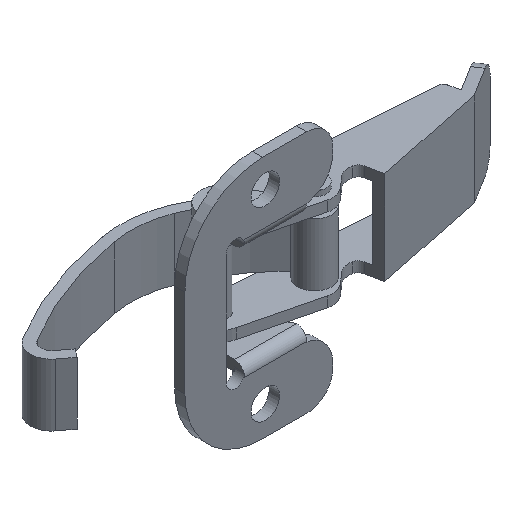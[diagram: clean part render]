
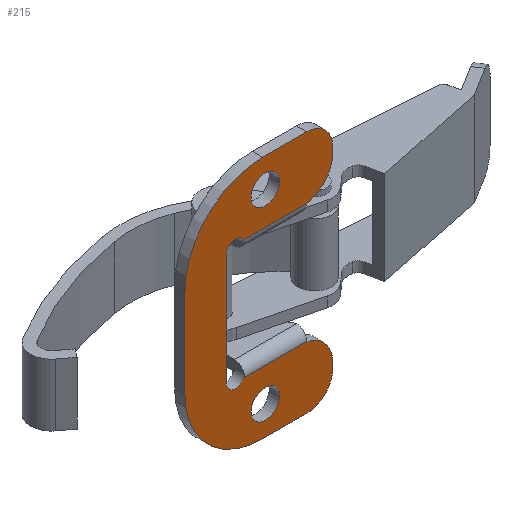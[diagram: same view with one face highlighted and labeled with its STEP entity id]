
A CAD part, isometric view. The second image highlights one B-rep face of the part: STEP entity #215.
In plain terms, the highlighted planar face has unit normal (0, -1, 0).
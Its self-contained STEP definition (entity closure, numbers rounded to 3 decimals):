
#215 = ADVANCED_FACE( '', ( #484, #485, #486 ), #487, .F. );
#484 = FACE_BOUND( '', #812, .T. );
#485 = FACE_BOUND( '', #813, .T. );
#486 = FACE_OUTER_BOUND( '', #814, .T. );
#487 = PLANE( '', #815 );
#812 = EDGE_LOOP( '', ( #1363 ) );
#813 = EDGE_LOOP( '', ( #1364 ) );
#814 = EDGE_LOOP( '', ( #1365, #1366, #1367, #1368, #1369, #1370, #1371, #1372, #1373, #1374, #1375, #1376, #1377, #1378, #1379, #1380, #1381, #1382 ) );
#815 = AXIS2_PLACEMENT_3D( '', #1383, #1384, #1385 );
#1363 = ORIENTED_EDGE( '', *, *, #2052, .T. );
#1364 = ORIENTED_EDGE( '', *, *, #1890, .T. );
#1365 = ORIENTED_EDGE( '', *, *, #1962, .F. );
#1366 = ORIENTED_EDGE( '', *, *, #2053, .T. );
#1367 = ORIENTED_EDGE( '', *, *, #1976, .F. );
#1368 = ORIENTED_EDGE( '', *, *, #2008, .F. );
#1369 = ORIENTED_EDGE( '', *, *, #2022, .F. );
#1370 = ORIENTED_EDGE( '', *, *, #1886, .F. );
#1371 = ORIENTED_EDGE( '', *, *, #2054, .F. );
#1372 = ORIENTED_EDGE( '', *, *, #2055, .F. );
#1373 = ORIENTED_EDGE( '', *, *, #2018, .F. );
#1374 = ORIENTED_EDGE( '', *, *, #1894, .F. );
#1375 = ORIENTED_EDGE( '', *, *, #2056, .F. );
#1376 = ORIENTED_EDGE( '', *, *, #1968, .F. );
#1377 = ORIENTED_EDGE( '', *, *, #2057, .F. );
#1378 = ORIENTED_EDGE( '', *, *, #1939, .F. );
#1379 = ORIENTED_EDGE( '', *, *, #1908, .F. );
#1380 = ORIENTED_EDGE( '', *, *, #2058, .T. );
#1381 = ORIENTED_EDGE( '', *, *, #1859, .F. );
#1382 = ORIENTED_EDGE( '', *, *, #2059, .F. );
#1383 = CARTESIAN_POINT( '', ( 0., -8.5, 0. ) );
#1384 = DIRECTION( '', ( 0., 1., 0. ) );
#1385 = DIRECTION( '', ( 1., 0., 0. ) );
#1859 = EDGE_CURVE( '', #2199, #2200, #2201, .T. );
#1886 = EDGE_CURVE( '', #2246, #2248, #2249, .T. );
#1890 = EDGE_CURVE( '', #2254, #2254, #2255, .T. );
#1894 = EDGE_CURVE( '', #2260, #2262, #2263, .T. );
#1908 = EDGE_CURVE( '', #2284, #2286, #2287, .T. );
#1939 = EDGE_CURVE( '', #2286, #2339, #2340, .T. );
#1962 = EDGE_CURVE( '', #2377, #2379, #2380, .T. );
#1968 = EDGE_CURVE( '', #2388, #2390, #2391, .T. );
#1976 = EDGE_CURVE( '', #2401, #2402, #2403, .T. );
#2008 = EDGE_CURVE( '', #2452, #2401, #2454, .T. );
#2018 = EDGE_CURVE( '', #2262, #2466, #2467, .T. );
#2022 = EDGE_CURVE( '', #2248, #2452, #2471, .T. );
#2052 = EDGE_CURVE( '', #2519, #2519, #2520, .T. );
#2053 = EDGE_CURVE( '', #2377, #2402, #2521, .F. );
#2054 = EDGE_CURVE( '', #2522, #2246, #2523, .T. );
#2055 = EDGE_CURVE( '', #2466, #2522, #2524, .T. );
#2056 = EDGE_CURVE( '', #2390, #2260, #2525, .T. );
#2057 = EDGE_CURVE( '', #2339, #2388, #2526, .T. );
#2058 = EDGE_CURVE( '', #2284, #2200, #2527, .F. );
#2059 = EDGE_CURVE( '', #2379, #2199, #2528, .T. );
#2199 = VERTEX_POINT( '', #2701 );
#2200 = VERTEX_POINT( '', #2702 );
#2201 = CIRCLE( '', #2703, 1.75 );
#2246 = VERTEX_POINT( '', #2761 );
#2248 = VERTEX_POINT( '', #2764 );
#2249 = CIRCLE( '', #2765, 5. );
#2254 = VERTEX_POINT( '', #2771 );
#2255 = CIRCLE( '', #2772, 2.75 );
#2260 = VERTEX_POINT( '', #2777 );
#2262 = VERTEX_POINT( '', #2780 );
#2263 = CIRCLE( '', #2781, 15. );
#2284 = VERTEX_POINT( '', #2809 );
#2286 = VERTEX_POINT( '', #2811 );
#2287 = LINE( '', #2812, #2813 );
#2339 = VERTEX_POINT( '', #2876 );
#2340 = CIRCLE( '', #2877, 6. );
#2377 = VERTEX_POINT( '', #2922 );
#2379 = VERTEX_POINT( '', #2929 );
#2380 = CIRCLE( '', #2930, 1.75 );
#2388 = VERTEX_POINT( '', #2939 );
#2390 = VERTEX_POINT( '', #2942 );
#2391 = CIRCLE( '', #2943, 5. );
#2401 = VERTEX_POINT( '', #2956 );
#2402 = VERTEX_POINT( '', #2957 );
#2403 = LINE( '', #2958, #2959 );
#2452 = VERTEX_POINT( '', #3020 );
#2454 = CIRCLE( '', #3023, 6. );
#2466 = VERTEX_POINT( '', #3039 );
#2467 = LINE( '', #3040, #3041 );
#2471 = LINE( '', #3047, #3048 );
#2519 = VERTEX_POINT( '', #3113 );
#2520 = CIRCLE( '', #3114, 2.75 );
#2521 = LINE( '', #3115, #3116 );
#2522 = VERTEX_POINT( '', #3117 );
#2523 = LINE( '', #3118, #3119 );
#2524 = CIRCLE( '', #3120, 15. );
#2525 = LINE( '', #3121, #3122 );
#2526 = LINE( '', #3123, #3124 );
#2527 = LINE( '', #3125, #3126 );
#2528 = LINE( '', #3127, #3128 );
#2701 = CARTESIAN_POINT( '', ( -7.5, -8.5, -10.75 ) );
#2702 = CARTESIAN_POINT( '', ( -4.169, -8.5, -11.5 ) );
#2703 = AXIS2_PLACEMENT_3D( '', #3336, #3337, #3338 );
#2761 = CARTESIAN_POINT( '', ( 8., -8.5, 23.5 ) );
#2764 = CARTESIAN_POINT( '', ( 13., -8.5, 18.5 ) );
#2765 = AXIS2_PLACEMENT_3D( '', #3378, #3379, #3380 );
#2771 = CARTESIAN_POINT( '', ( 0., -8.5, -15.15 ) );
#2772 = AXIS2_PLACEMENT_3D( '', #3385, #3386, #3387 );
#2777 = CARTESIAN_POINT( '', ( -0.5, -8.5, -23.5 ) );
#2780 = CARTESIAN_POINT( '', ( -15.5, -8.5, -8.5 ) );
#2781 = AXIS2_PLACEMENT_3D( '', #3392, #3393, #3394 );
#2809 = CARTESIAN_POINT( '', ( 8., -8.5, -11.5 ) );
#2811 = CARTESIAN_POINT( '', ( 8., -8.5, -11.584 ) );
#2812 = CARTESIAN_POINT( '', ( 8., -8.5, -11.5 ) );
#2813 = VECTOR( '', #3411, 1000. );
#2876 = CARTESIAN_POINT( '', ( 13., -8.5, -17.5 ) );
#2877 = AXIS2_PLACEMENT_3D( '', #3468, #3469, #3470 );
#2922 = CARTESIAN_POINT( '', ( -4.169, -8.5, 11.5 ) );
#2929 = CARTESIAN_POINT( '', ( -7.5, -8.5, 10.75 ) );
#2930 = AXIS2_PLACEMENT_3D( '', #3503, #3504, #3505 );
#2939 = CARTESIAN_POINT( '', ( 13., -8.5, -18.5 ) );
#2942 = CARTESIAN_POINT( '', ( 8., -8.5, -23.5 ) );
#2943 = AXIS2_PLACEMENT_3D( '', #3514, #3515, #3516 );
#2956 = CARTESIAN_POINT( '', ( 8., -8.5, 11.584 ) );
#2957 = CARTESIAN_POINT( '', ( 8., -8.5, 11.5 ) );
#2958 = CARTESIAN_POINT( '', ( 8., -8.5, 11.584 ) );
#2959 = VECTOR( '', #3523, 1000. );
#3020 = CARTESIAN_POINT( '', ( 13., -8.5, 17.5 ) );
#3023 = AXIS2_PLACEMENT_3D( '', #3576, #3577, #3578 );
#3039 = CARTESIAN_POINT( '', ( -15.5, -8.5, 8.5 ) );
#3040 = CARTESIAN_POINT( '', ( -15.5, -8.5, -8.5 ) );
#3041 = VECTOR( '', #3586, 1000. );
#3047 = CARTESIAN_POINT( '', ( 13., -8.5, 18.5 ) );
#3048 = VECTOR( '', #3589, 1000. );
#3113 = CARTESIAN_POINT( '', ( 0., -8.5, 20.65 ) );
#3114 = AXIS2_PLACEMENT_3D( '', #3628, #3629, #3630 );
#3115 = CARTESIAN_POINT( '', ( 8., -8.5, 11.5 ) );
#3116 = VECTOR( '', #3631, 1000. );
#3117 = CARTESIAN_POINT( '', ( -0.5, -8.5, 23.5 ) );
#3118 = CARTESIAN_POINT( '', ( -0.5, -8.5, 23.5 ) );
#3119 = VECTOR( '', #3632, 1000. );
#3120 = AXIS2_PLACEMENT_3D( '', #3633, #3634, #3635 );
#3121 = CARTESIAN_POINT( '', ( 8., -8.5, -23.5 ) );
#3122 = VECTOR( '', #3636, 1000. );
#3123 = CARTESIAN_POINT( '', ( 13., -8.5, -17.5 ) );
#3124 = VECTOR( '', #3637, 1000. );
#3125 = CARTESIAN_POINT( '', ( -4., -8.5, -11.5 ) );
#3126 = VECTOR( '', #3638, 1000. );
#3127 = CARTESIAN_POINT( '', ( -7.5, -8.5, 10.75 ) );
#3128 = VECTOR( '', #3639, 1000. );
#3336 = CARTESIAN_POINT( '', ( -5.75, -8.5, -10.75 ) );
#3337 = DIRECTION( '', ( 0., -1., 0. ) );
#3338 = DIRECTION( '', ( -1., 0., 0. ) );
#3378 = CARTESIAN_POINT( '', ( 8., -8.5, 18.5 ) );
#3379 = DIRECTION( '', ( 0., 1., 0. ) );
#3380 = DIRECTION( '', ( 0., 0., 1. ) );
#3385 = CARTESIAN_POINT( '', ( 0., -8.5, -17.9 ) );
#3386 = DIRECTION( '', ( 0., 1., 0. ) );
#3387 = DIRECTION( '', ( 0., 0., 1. ) );
#3392 = CARTESIAN_POINT( '', ( -0.5, -8.5, -8.5 ) );
#3393 = DIRECTION( '', ( 0., 1., 0. ) );
#3394 = DIRECTION( '', ( 0., 0., -1. ) );
#3411 = DIRECTION( '', ( 0., 0., -1. ) );
#3468 = CARTESIAN_POINT( '', ( 7., -8.5, -17.5 ) );
#3469 = DIRECTION( '', ( 0., 1., 0. ) );
#3470 = DIRECTION( '', ( 0.167, 0., 0.986 ) );
#3503 = CARTESIAN_POINT( '', ( -5.75, -8.5, 10.75 ) );
#3504 = DIRECTION( '', ( 0., -1., 0. ) );
#3505 = DIRECTION( '', ( 0.98, 0., 0.2 ) );
#3514 = CARTESIAN_POINT( '', ( 8., -8.5, -18.5 ) );
#3515 = DIRECTION( '', ( 0., 1., 0. ) );
#3516 = DIRECTION( '', ( 1., 0., 0. ) );
#3523 = DIRECTION( '', ( 0., 0., -1. ) );
#3576 = CARTESIAN_POINT( '', ( 7., -8.5, 17.5 ) );
#3577 = DIRECTION( '', ( 0., 1., 0. ) );
#3578 = DIRECTION( '', ( 1., 0., 0. ) );
#3586 = DIRECTION( '', ( 0., 0., 1. ) );
#3589 = DIRECTION( '', ( 0., 0., -1. ) );
#3628 = CARTESIAN_POINT( '', ( 0., -8.5, 17.9 ) );
#3629 = DIRECTION( '', ( 0., 1., 0. ) );
#3630 = DIRECTION( '', ( 0., 0., 1. ) );
#3631 = DIRECTION( '', ( -1., 0., 0. ) );
#3632 = DIRECTION( '', ( 1., 0., 0. ) );
#3633 = CARTESIAN_POINT( '', ( -0.5, -8.5, 8.5 ) );
#3634 = DIRECTION( '', ( 0., 1., 0. ) );
#3635 = DIRECTION( '', ( -1., 0., 0. ) );
#3636 = DIRECTION( '', ( -1., 0., 0. ) );
#3637 = DIRECTION( '', ( 0., 0., -1. ) );
#3638 = DIRECTION( '', ( 1., 0., 0. ) );
#3639 = DIRECTION( '', ( 0., 0., -1. ) );
